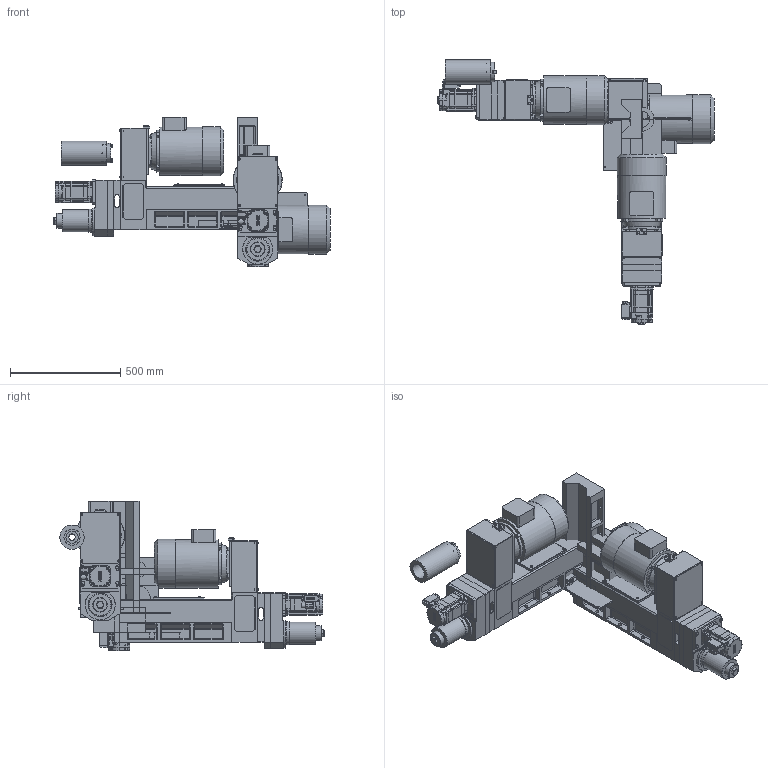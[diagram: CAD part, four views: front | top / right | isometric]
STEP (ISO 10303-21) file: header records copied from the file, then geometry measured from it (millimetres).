
FILE_DESCRIPTION( ( 'STEP AP203' ), '1' );
FILE_NAME( 'C:/Documents and Settings/Saverio/Desktop/disegni ironcad/unità serie 3/FM 340 CN/FM 340 CN_A.stp', '2013-12-10T11:14:39', ( ' ' ), ( ' ' ), 'XStep 1.0', ' ', ' ' );
FILE_SCHEMA( ( 'CONFIG_CONTROL_DESIGN' ) );
Length unit declared in the file: metre
Products named in the file (54): Assem1; Assem2; Assem3; 1; 2; 3; 4; 5; 6; 7; 8; 9; 10; 11; 12; 13; 14; 15; 16; 17; 18; 19; 20; 21; 22; 23; 24; 25; 26; 27; 28; 29; 30; 31; 32; 33; 34; 35; 36; 37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
Bounding box: 1251.5 x 1196.96 x 678.5 mm (x, y, z)
Volume: 115162621.6 mm3; surface area: 8224174.6 mm2
Topology: 153 solids, 153 shells, 4890 faces, 11703 edges, 7221 vertices
Faces by surface type: plane 2742, cylinder 1005, cone 495, bspline 372, sphere 189, torus 87
Full cylindrical faces by diameter (mm): 5 x24, 6 x27, 6.5 x45, 6.637 x12, 6.647 x12, 8 x12, 8.366 x3, 9.87 x9, 10 x12, 10.25 x12, 10.5 x6, 14.5 x18, 19 x3, 20 x6, 22 x3, 22.4 x3, 24 x3, 25 x3, 28 x6, 36.4 x3, 41 x3, 46 x3, 50 x3, 55 x3, 66 x3, 70 x3, 73 x3, 74 x6, 76 x3, 80 x3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
Entity records: 61207 total; most frequent: CARTESIAN_POINT 23286, ORIENTED_EDGE 7158, DIRECTION 7096, EDGE_CURVE 3579, AXIS2_PLACEMENT_3D 2499, VERTEX_POINT 2345, LINE 2098, VECTOR 2098
